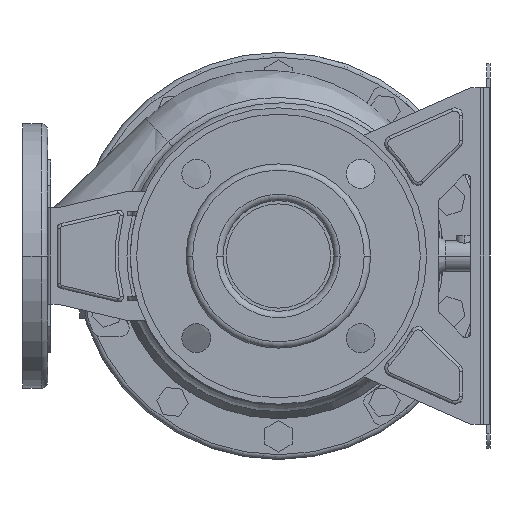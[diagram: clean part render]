
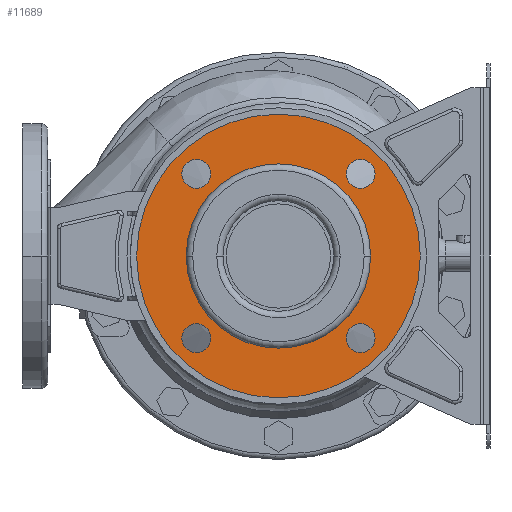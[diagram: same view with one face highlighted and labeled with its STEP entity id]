
A CAD part, left-side view. The second image highlights one B-rep face of the part: STEP entity #11689.
In plain terms, the highlighted planar face has unit normal (-1, 0, 0).
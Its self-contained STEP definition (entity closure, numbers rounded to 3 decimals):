
#11022=CARTESIAN_POINT('',(12.,0.,0.));
#11023=DIRECTION('',(-1.,0.,0.));
#11024=DIRECTION('',(0.,1.,0.));
#11025=AXIS2_PLACEMENT_3D('',#11022,#11023,#11024);
#11030=CARTESIAN_POINT('',(12.,0.,0.));
#11031=DIRECTION('',(1.,0.,0.));
#11032=DIRECTION('',(0.,1.,0.));
#11033=AXIS2_PLACEMENT_3D('',#11030,#11031,#11032);
#11038=CARTESIAN_POINT('',(12.,-51.265,51.265));
#11039=DIRECTION('',(1.,0.,0.));
#11040=DIRECTION('',(0.,1.,0.));
#11041=AXIS2_PLACEMENT_3D('',#11038,#11039,#11040);
#11046=CARTESIAN_POINT('',(12.,-51.265,51.265));
#11047=DIRECTION('',(1.,0.,0.));
#11048=DIRECTION('',(0.,-1.,0.));
#11049=AXIS2_PLACEMENT_3D('',#11046,#11047,#11048);
#11054=CARTESIAN_POINT('',(12.,-51.265,-51.265));
#11055=DIRECTION('',(1.,0.,0.));
#11056=DIRECTION('',(0.,0.,1.));
#11057=AXIS2_PLACEMENT_3D('',#11054,#11055,#11056);
#11062=CARTESIAN_POINT('',(12.,-51.265,-51.265));
#11063=DIRECTION('',(1.,0.,0.));
#11064=DIRECTION('',(0.,0.,-1.));
#11065=AXIS2_PLACEMENT_3D('',#11062,#11063,#11064);
#11070=CARTESIAN_POINT('',(12.,51.265,-51.265));
#11071=DIRECTION('',(1.,0.,0.));
#11072=DIRECTION('',(0.,-1.,0.));
#11073=AXIS2_PLACEMENT_3D('',#11070,#11071,#11072);
#11078=CARTESIAN_POINT('',(12.,51.265,-51.265));
#11079=DIRECTION('',(1.,0.,0.));
#11080=DIRECTION('',(0.,1.,0.));
#11081=AXIS2_PLACEMENT_3D('',#11078,#11079,#11080);
#11086=CARTESIAN_POINT('',(12.,51.265,51.265));
#11087=DIRECTION('',(1.,0.,0.));
#11088=DIRECTION('',(0.,0.,-1.));
#11089=AXIS2_PLACEMENT_3D('',#11086,#11087,#11088);
#11094=CARTESIAN_POINT('',(12.,51.265,51.265));
#11095=DIRECTION('',(1.,0.,0.));
#11096=DIRECTION('',(0.,0.,1.));
#11097=AXIS2_PLACEMENT_3D('',#11094,#11095,#11096);
#11102=CARTESIAN_POINT('',(12.,0.,0.));
#11103=DIRECTION('',(1.,0.,0.));
#11104=DIRECTION('',(0.,1.,0.));
#11105=AXIS2_PLACEMENT_3D('',#11102,#11103,#11104);
#11124=CARTESIAN_POINT('',(12.,0.,0.));
#11125=DIRECTION('',(-1.,0.,0.));
#11126=DIRECTION('',(0.,1.,0.));
#11127=AXIS2_PLACEMENT_3D('',#11124,#11125,#11126);
#11289=CARTESIAN_POINT('',(12.,88.5,0.));
#11291=VERTEX_POINT('',#11289);
#11292=CARTESIAN_POINT('',(12.,57.5,0.));
#11294=VERTEX_POINT('',#11292);
#11321=CARTESIAN_POINT('',(12.,-88.5,0.));
#11323=VERTEX_POINT('',#11321);
#11324=CARTESIAN_POINT('',(12.,-57.5,0.));
#11326=VERTEX_POINT('',#11324);
#11336=CARTESIAN_POINT('',(12.,-42.265,51.265));
#11337=CARTESIAN_POINT('',(12.,-60.265,51.265));
#11338=VERTEX_POINT('',#11336);
#11339=VERTEX_POINT('',#11337);
#11344=CARTESIAN_POINT('',(12.,-51.265,-42.265));
#11345=CARTESIAN_POINT('',(12.,-51.265,-60.265));
#11346=VERTEX_POINT('',#11344);
#11347=VERTEX_POINT('',#11345);
#11352=CARTESIAN_POINT('',(12.,42.265,-51.265));
#11353=CARTESIAN_POINT('',(12.,60.265,-51.265));
#11354=VERTEX_POINT('',#11352);
#11355=VERTEX_POINT('',#11353);
#11360=CARTESIAN_POINT('',(12.,51.265,42.265));
#11361=CARTESIAN_POINT('',(12.,51.265,60.265));
#11362=VERTEX_POINT('',#11360);
#11363=VERTEX_POINT('',#11361);
#11650=CARTESIAN_POINT('',(12.,0.,0.));
#11651=DIRECTION('',(1.,0.,0.));
#11652=DIRECTION('',(0.,-1.,0.));
#11653=AXIS2_PLACEMENT_3D('',#11650,#11651,#11652);
#11654=PLANE('',#11653);
#11655=ORIENTED_EDGE('',*,*,#11643,.F.);
#11656=ORIENTED_EDGE('',*,*,#11632,.T.);
#11657=EDGE_LOOP('',(#11655,#11656));
#11658=FACE_OUTER_BOUND('',#11657,.F.);
#11660=ORIENTED_EDGE('',*,*,#11659,.F.);
#11662=ORIENTED_EDGE('',*,*,#11661,.T.);
#11663=EDGE_LOOP('',(#11660,#11662));
#11664=FACE_BOUND('',#11663,.F.);
#11666=ORIENTED_EDGE('',*,*,#11665,.F.);
#11668=ORIENTED_EDGE('',*,*,#11667,.F.);
#11669=EDGE_LOOP('',(#11666,#11668));
#11670=FACE_BOUND('',#11669,.F.);
#11672=ORIENTED_EDGE('',*,*,#11671,.F.);
#11674=ORIENTED_EDGE('',*,*,#11673,.F.);
#11675=EDGE_LOOP('',(#11672,#11674));
#11676=FACE_BOUND('',#11675,.F.);
#11678=ORIENTED_EDGE('',*,*,#11677,.F.);
#11680=ORIENTED_EDGE('',*,*,#11679,.F.);
#11681=EDGE_LOOP('',(#11678,#11680));
#11682=FACE_BOUND('',#11681,.F.);
#11684=ORIENTED_EDGE('',*,*,#11683,.F.);
#11686=ORIENTED_EDGE('',*,*,#11685,.F.);
#11687=EDGE_LOOP('',(#11684,#11686));
#11688=FACE_BOUND('',#11687,.F.);
#11026=CIRCLE('',#11025,88.5);
#11034=CIRCLE('',#11033,88.5);
#11042=CIRCLE('',#11041,9.);
#11050=CIRCLE('',#11049,9.);
#11058=CIRCLE('',#11057,9.);
#11066=CIRCLE('',#11065,9.);
#11074=CIRCLE('',#11073,9.);
#11082=CIRCLE('',#11081,9.);
#11090=CIRCLE('',#11089,9.);
#11098=CIRCLE('',#11097,9.);
#11106=CIRCLE('',#11105,57.5);
#11128=CIRCLE('',#11127,57.5);
#11632=EDGE_CURVE('',#11291,#11323,#11034,.T.);
#11643=EDGE_CURVE('',#11291,#11323,#11026,.T.);
#11659=EDGE_CURVE('',#11294,#11326,#11106,.T.);
#11661=EDGE_CURVE('',#11294,#11326,#11128,.T.);
#11665=EDGE_CURVE('',#11338,#11339,#11042,.T.);
#11667=EDGE_CURVE('',#11339,#11338,#11050,.T.);
#11671=EDGE_CURVE('',#11346,#11347,#11058,.T.);
#11673=EDGE_CURVE('',#11347,#11346,#11066,.T.);
#11677=EDGE_CURVE('',#11354,#11355,#11074,.T.);
#11679=EDGE_CURVE('',#11355,#11354,#11082,.T.);
#11683=EDGE_CURVE('',#11362,#11363,#11090,.T.);
#11685=EDGE_CURVE('',#11363,#11362,#11098,.T.);
#11689=ADVANCED_FACE('',(#11658,#11664,#11670,#11676,#11682,#11688),#11654,.F.);
